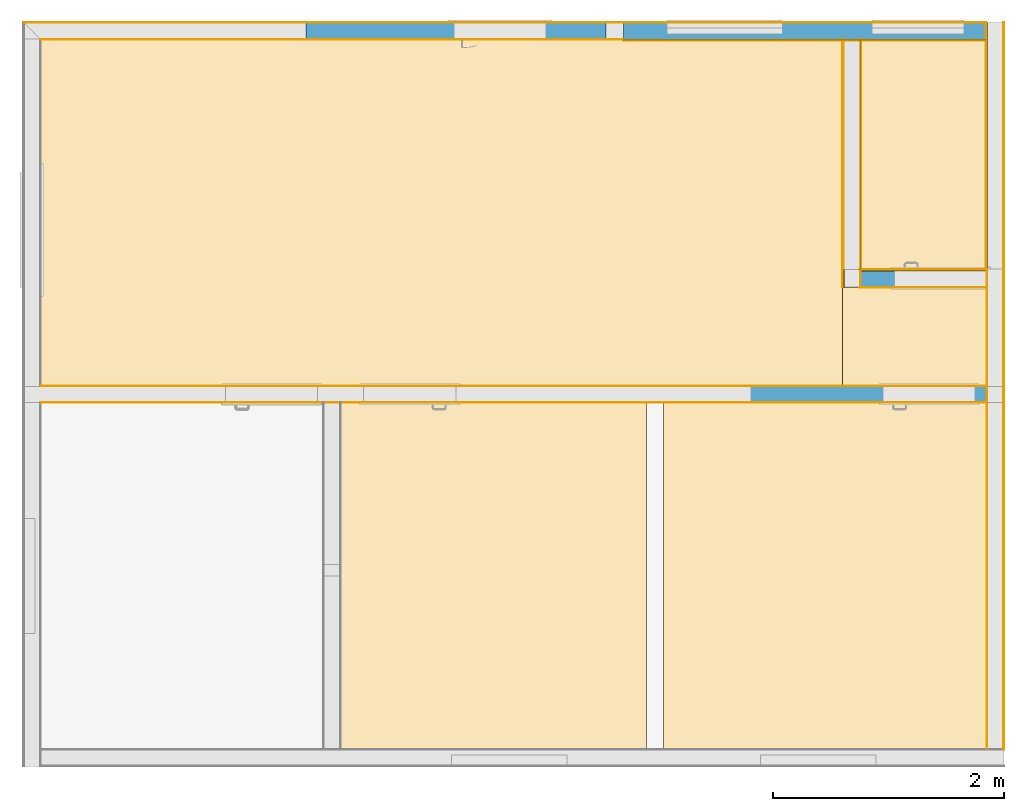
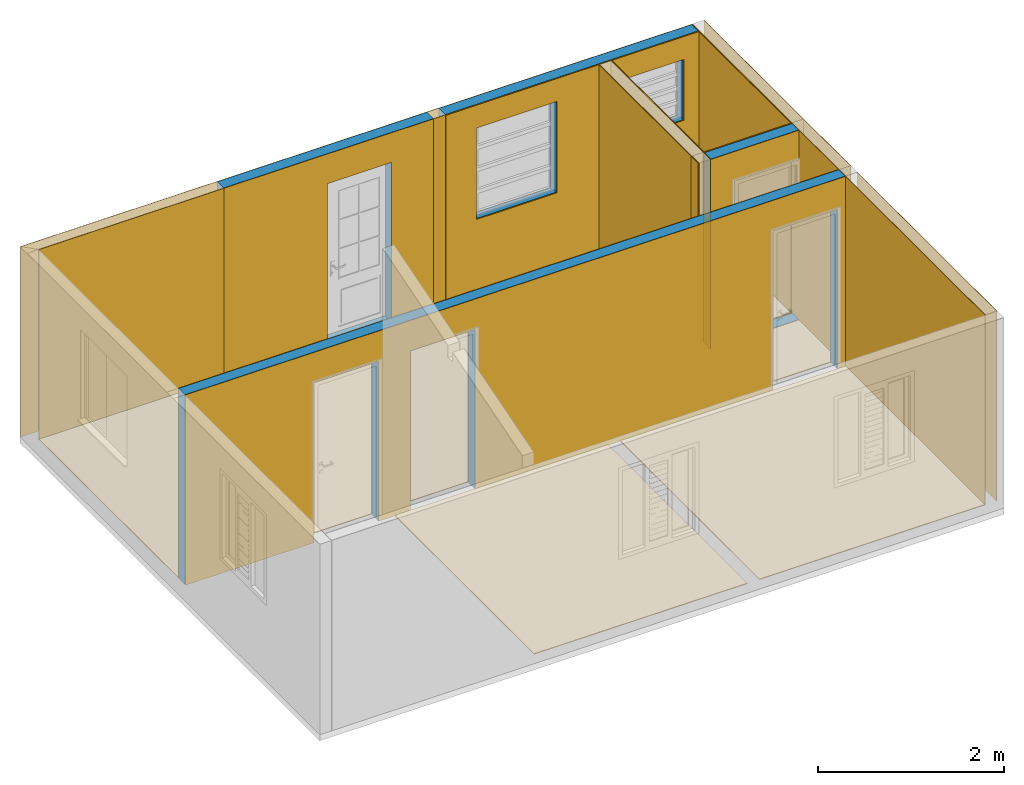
# One storey, part 5 of 8: 33 coverings, 4 building element parts, 7 openings, 11 elements without a shape of their own.
"""IFC2X3 building model written with IfcOpenShell, lengths in millimetres."""

from ifc_helpers import new_model, entity, si_unit, converted_unit, derived_unit, money_unit, direction, frame, origin_with_axes, origin_2d_with_axis, place, context, subcontext, project, spatial, polyline, rectangle, outline, extrude, boolean, faceted_brep, material, type_object, element, aggregate, save


model = new_model("IFC2X3")

# Units and contexts
model_context = context("Model", 3, precision=0.01, world=origin_with_axes(), true_north=direction((0.0, 1.0)))
body_context = subcontext(model_context, "Body", "Model", "MODEL_VIEW")
ifc_project = project(units=[si_unit("LENGTHUNIT", "METRE", prefix="MILLI"), si_unit("AREAUNIT", "SQUARE_METRE"), si_unit("VOLUMEUNIT", "CUBIC_METRE"), converted_unit("PLANEANGLEUNIT", "DEGREE", entity("IfcPlaneAngleMeasure", 0.0174532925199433), si_unit("PLANEANGLEUNIT", "RADIAN"), dimensions=[0, 0, 0, 0, 0, 0, 0]), money_unit("USD"), converted_unit("TIMEUNIT", "Year", entity("IfcTimeMeasure", 31557600.0), si_unit("TIMEUNIT", "SECOND"), dimensions=[0, 0, 1, 0, 0, 0, 0]), si_unit("MASSUNIT", "GRAM", prefix="KILO"), si_unit("THERMODYNAMICTEMPERATUREUNIT", "DEGREE_CELSIUS"), si_unit("LUMINOUSINTENSITYUNIT", "LUMEN"), si_unit("ENERGYUNIT", "JOULE", prefix="MEGA"), derived_unit("THERMALCONDUCTANCEUNIT", [(si_unit("POWERUNIT", "WATT"), 1), (si_unit("LENGTHUNIT", "METRE"), -1), (si_unit("THERMODYNAMICTEMPERATUREUNIT", "KELVIN"), -1)]), derived_unit("SPECIFICHEATCAPACITYUNIT", [(si_unit("ENERGYUNIT", "JOULE"), 1), (si_unit("MASSUNIT", "GRAM", prefix="KILO"), -1), (si_unit("THERMODYNAMICTEMPERATUREUNIT", "KELVIN"), -1)]), derived_unit("MASSDENSITYUNIT", [(si_unit("MASSUNIT", "GRAM", prefix="KILO"), 1), (si_unit("VOLUMEUNIT", "CUBIC_METRE"), -1)])], contexts=[model_context])

# Site, building, storey
site_placement = place(None, origin_with_axes())
site = spatial("IfcSite", under=ifc_project, at=site_placement, Name="Local", CompositionType="ELEMENT")
building_placement = place(site_placement, origin_with_axes())
building = spatial("IfcBuilding", under=site, at=building_placement, Name="Construção", CompositionType="ELEMENT")
storey_placement = place(building_placement, origin_with_axes())
storey = spatial("IfcBuildingStorey", under=building, at=storey_placement, Name="Pavimento Térreo", CompositionType="ELEMENT", Elevation=0.0)

# Coverings
ifc_material_1 = material(Name="Cerâmica")
covering_type = type_object("IfcCoveringType", Name="Cerâmica 10", PredefinedType="FLOORING")
covering_1_placement = place(storey_placement, frame((7098.898364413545, 4150.000000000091, 0.0), z_axis=(0.0, 0.0, 1.0), x_axis=(1.0, 0.0, 0.0)))
element("IfcCovering", 1, at=covering_1_placement, inside=storey, type_object=covering_type, material=ifc_material_1, Name="P05", PredefinedType="FLOORING", context=body_context, shape_type="SweptSolid", body=[
    extrude(outline(polyline([(0.0, 0.0), (0.0, -855.0000000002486), (1256.101621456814, -855.0000000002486), (1256.101646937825, 0.0), (0.0, 0.0)])), origin_with_axes(), (0.0, 0.0, 1.0), 10.0),
])
covering_2_placement = place(storey_placement, frame((150.0000000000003, 6300.000000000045, 0.0), z_axis=(0.0, 0.0, 1.0), x_axis=(1.0, 0.0, 0.0)))
element("IfcCovering", 2, at=covering_2_placement, inside=storey, type_object=covering_type, material=ifc_material_1, Name="P04", PredefinedType="FLOORING", context=body_context, shape_type="SweptSolid", body=[
    extrude(outline(polyline([(0.0, 0.0), (0.0, -3000.000011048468), (6948.89833033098, -3000.000011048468), (6948.898419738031, 0.0), (0.0, 0.0)])), origin_with_axes(), (0.0, 0.0, 1.0), 10.0),
])
covering_3_placement = place(storey_placement, frame((7114.999999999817, 6289.999999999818, 0.0), z_axis=(0.0, 0.0, 1.0), x_axis=(1.0, 0.0, 0.0)))
element("IfcCovering", 3, at=covering_3_placement, inside=storey, type_object=covering_type, material=ifc_material_1, Name="P06", PredefinedType="FLOORING", context=body_context, shape_type="SweptSolid", body=[
    extrude(outline(polyline([(0.0, 0.0), (0.0, -1980.000000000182), (1225.000000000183, -1980.000000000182), (1225.00005900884, 0.0), (0.0, 0.0)])), origin_with_axes(), (0.0, 0.0, 1.0), 10.0),
])
covering_4_placement = place(storey_placement, frame((2750.0, 3150.000011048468, 0.0), z_axis=(0.0, 0.0, 1.0), x_axis=(1.0, 0.0, 0.0)))
element("IfcCovering", 4, at=covering_4_placement, inside=storey, type_object=covering_type, material=ifc_material_1, Name="P02", PredefinedType="FLOORING", context=body_context, shape_type="SweptSolid", body=[
    extrude(outline(polyline([(0.0, 0.0), (0.0, -3000.000011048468), (2649.999934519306, -3000.000011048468), (2650.000023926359, 0.0), (0.0, 0.0)])), origin_with_axes(), (0.0, 0.0, 1.0), 10.0),
])
covering_5_placement = place(storey_placement, frame((5550.000000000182, 3150.000011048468, 0.0), z_axis=(0.0, 0.0, 1.0), x_axis=(1.0, 0.0, 0.0)))
element("IfcCovering", 5, at=covering_5_placement, inside=storey, type_object=covering_type, material=ifc_material_1, Name="P03", PredefinedType="FLOORING", context=body_context, shape_type="SweptSolid", body=[
    extrude(outline(polyline([(0.0, 0.0), (0.0, -3000.000011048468), (2799.999945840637, -3000.000011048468), (2800.000035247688, 0.0), (0.0, 0.0)])), origin_with_axes(), (0.0, 0.0, 1.0), 10.0),
])

# Wall, coverings
wall_type_1 = type_object("IfcWallType", Name="Alvenaria 140, Rebocada 2 Faces 150", PredefinedType="NOTDEFINED")
wall_1_placement = place(storey_placement, frame((8500.0, 149.9999999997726, 0.0), z_axis=(0.0, 0.0, 1.0), x_axis=(0.0, 1.0, 0.0)))
wall_1 = element("IfcWall", 6, at=wall_1_placement, inside=storey, type_object=wall_type_1, Name="Parede-03 - Trecho 3")
ifc_material_2 = material(Name="Reboco DEF")
covering_6_placement = place(wall_1_placement, origin_with_axes())
covering_6 = element("IfcCovering", 7, at=covering_6_placement, material=ifc_material_2, Name="Reboco DEF", PredefinedType="CLADDING", context=body_context, shape_type="CSG", body=[
    boolean("DIFFERENCE", boolean("DIFFERENCE", extrude(outline(polyline([(0.0, 0.0), (3145.00000000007, 0.0), (3145.00000000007, 5.000000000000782), (0.0, 5.000000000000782), (0.0, 0.0)])), origin_with_axes(), (0.0, 0.0, 1.0), 2500.0), faceted_brep([(3005.00000000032, 0.0, 2500.0), (3005.00000000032, 0.0, 2300.0), (3145.000000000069, 0.0, 2300.0), (3145.00000000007, 0.0, 2500.0), (3005.00000000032, 5.000000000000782, 2500.0), (3005.00000000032, 5.000000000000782, 2300.0), (3145.00000000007, 5.000000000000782, 2300.0), (3145.00000000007, 5.000000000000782, 2500.0)], [[[0, 1, 2, 3]], [[1, 0, 4, 5]], [[6, 2, 1, 5]], [[2, 6, 7, 3]], [[4, 0, 3, 7]], [[5, 4, 7, 6]]])), faceted_brep([(3005.00000000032, 5.000000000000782, 2500.0), (3005.00000000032, 5.000000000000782, 2300.0), (3145.00000000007, 5.000000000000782, 2300.0), (3145.00000000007, 5.000000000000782, 2500.0), (3005.00000000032, 140.0000000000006, 2500.0), (3005.00000000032, 140.0000000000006, 2300.0), (3145.00000000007, 140.0000000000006, 2300.0), (3145.00000000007, 140.0000000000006, 2500.0)], [[[0, 1, 2, 3]], [[0, 4, 5, 1]], [[6, 2, 1, 5]], [[6, 7, 3, 2]], [[4, 0, 3, 7]], [[4, 7, 6, 5]]])),
])
covering_7_placement = place(wall_1_placement, origin_with_axes())
covering_7 = element("IfcCovering", 8, at=covering_7_placement, material=ifc_material_2, Name="Reboco DEF", PredefinedType="CLADDING", context=body_context, shape_type="CSG", body=[
    boolean("DIFFERENCE", boolean("DIFFERENCE", extrude(outline(polyline([(0.0, 144.9999999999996), (3145.00000000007, 144.9999999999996), (3145.00000000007, 150.0000000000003), (0.0, 150.0000000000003), (0.0, 144.9999999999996)])), origin_with_axes(), (0.0, 0.0, 1.0), 2500.0), faceted_brep([(3005.00000000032, 0.0, 2500.0), (3005.00000000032, 0.0, 2300.0), (3145.000000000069, 0.0, 2300.0), (3145.00000000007, 0.0, 2500.0), (3005.00000000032, 5.000000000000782, 2500.0), (3005.00000000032, 5.000000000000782, 2300.0), (3145.00000000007, 5.000000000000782, 2300.0), (3145.00000000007, 5.000000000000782, 2500.0)], [[[0, 1, 2, 3]], [[1, 0, 4, 5]], [[6, 2, 1, 5]], [[2, 6, 7, 3]], [[4, 0, 3, 7]], [[5, 4, 7, 6]]])), faceted_brep([(3005.00000000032, 5.000000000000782, 2500.0), (3005.00000000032, 5.000000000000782, 2300.0), (3145.00000000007, 5.000000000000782, 2300.0), (3145.00000000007, 5.000000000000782, 2500.0), (3005.00000000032, 140.0000000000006, 2500.0), (3005.00000000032, 140.0000000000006, 2300.0), (3145.00000000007, 140.0000000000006, 2300.0), (3145.00000000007, 140.0000000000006, 2500.0)], [[[0, 1, 2, 3]], [[0, 4, 5, 1]], [[6, 2, 1, 5]], [[6, 7, 3, 2]], [[4, 0, 3, 7]], [[4, 7, 6, 5]]])),
])
aggregate(wall_1, [covering_6, covering_7])

# Wall, openings, coverings
wall_type_2 = type_object("IfcWallType", Name="Alvenaria 140, Rebocada + Azulejo 160", PredefinedType="NOTDEFINED")
wall_2_placement = place(storey_placement, frame((8340.0, 6449.999999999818, 0.0), z_axis=(0.0, 0.0, 1.0), x_axis=(-1.0, 0.0, 0.0)))
wall_2 = element("IfcWall", 9, at=wall_2_placement, inside=storey, type_object=wall_type_2, Name="Parede-04 - Trecho 4")
opening_1_placement = place(wall_2_placement, frame((585.0000000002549, 0.0, 1400.0), z_axis=(0.0, 0.0, 1.0), x_axis=(1.0, 0.0, 0.0)))
element("IfcOpeningElement", 10, at=opening_1_placement, cuts=wall_2, Name="J06", context=body_context, shape_type="SweptSolid", body=[
    extrude(rectangle(XDim=800.0000000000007, YDim=800.0000000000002, at=origin_2d_with_axis()), frame((0.0, 50.00000000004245, 400.0000000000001), z_axis=(0.0, -1.0, 0.0), x_axis=(-1.0, 0.0, 0.0)), (0.0, 0.0, -1.0), 270.0000000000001),
    extrude(rectangle(XDim=800.0000000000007, YDim=800.0000000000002, at=origin_2d_with_axis()), frame((0.0, 50.00000000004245, 400.0000000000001), z_axis=(0.0, 1.0, 0.0), x_axis=(-1.0, 0.0, 0.0)), (0.0, 0.0, -1.0), 210.0),
    extrude(rectangle(XDim=800.0000000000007, YDim=30.00000000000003, at=origin_2d_with_axis()), frame((0.0, 85.0000000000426, -15.00000000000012), z_axis=(0.0, 1.0, 0.0), x_axis=(-1.0, 0.0, 0.0)), (0.0, 0.0, -1.0), 195.0),
])
opening_2_placement = place(wall_2_placement, frame((2259.999999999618, -1.63424829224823e-10, 1000.0), z_axis=(0.0, 0.0, 1.0), x_axis=(1.0, 0.0, 0.0)))
element("IfcOpeningElement", 11, at=opening_2_placement, cuts=wall_2, Name="J01", context=body_context, shape_type="SweptSolid", body=[
    extrude(rectangle(XDim=1000.0, YDim=1200.0, at=origin_2d_with_axis()), frame((0.0, 50.00000000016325, 600.0000000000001), z_axis=(0.0, -1.0, 0.0), x_axis=(-1.0, 0.0, 0.0)), (0.0, 0.0, -1.0), 270.0000000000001),
    extrude(rectangle(XDim=1000.0, YDim=1200.0, at=origin_2d_with_axis()), frame((0.0, 50.00000000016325, 600.0000000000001), z_axis=(0.0, 1.0, 0.0), x_axis=(-1.0, 0.0, 0.0)), (0.0, 0.0, -1.0), 210.0),
    extrude(rectangle(XDim=1000.0, YDim=30.00000000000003, at=origin_2d_with_axis()), frame((0.0, 85.0000000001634, -15.00000000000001), z_axis=(0.0, 1.0, 0.0), x_axis=(-1.0, 0.0, 0.0)), (0.0, 0.0, -1.0), 195.0),
])
covering_8_placement = place(wall_2_placement, origin_with_axes())
covering_8 = element("IfcCovering", 12, at=covering_8_placement, material=ifc_material_2, Name="Reboco DEF", PredefinedType="CLADDING", context=body_context, shape_type="SweptSolid", body=[
    extrude(outline(polyline([(0.0, 0.0), (3140.000000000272, 0.0), (3140.000000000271, 4.999999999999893), (0.0, 4.999999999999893), (0.0, 0.0)])), origin_with_axes(), (0.0, 0.0, 1.0), 2500.0),
])
ifc_material_3 = material(Name="Argamassa Colante DEF")
covering_9_placement = place(wall_2_placement, origin_with_axes())
covering_9 = element("IfcCovering", 13, at=covering_9_placement, material=ifc_material_3, Name="Argamassa Colante DEF", PredefinedType="CLADDING", context=body_context, shape_type="SweptSolid", body=[
    extrude(outline(polyline([(0.0, 145.0000000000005), (3140.000000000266, 145.0000000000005), (3140.000000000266, 155.0000000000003), (0.0, 155.0000000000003), (0.0, 145.0000000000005)])), origin_with_axes(), (0.0, 0.0, 1.0), 2500.0),
])
ifc_material_4 = material(Name="Azulejo DEF")
covering_10_placement = place(wall_2_placement, origin_with_axes())
covering_10 = element("IfcCovering", 14, at=covering_10_placement, material=ifc_material_4, Name="Azulejo DEF", PredefinedType="CLADDING", context=body_context, shape_type="SweptSolid", body=[
    extrude(outline(polyline([(0.0, 155.0000000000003), (3140.000000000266, 155.0000000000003), (3140.000000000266, 160.0000000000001), (0.0, 160.0000000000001), (0.0, 155.0000000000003)])), origin_with_axes(), (0.0, 0.0, 1.0), 2500.0),
])

# Wall, coverings
wall_type_3 = type_object("IfcWallType", Name="Alvenaria 140, Azulejo + Rebocada 160", PredefinedType="NOTDEFINED")
wall_3_placement = place(storey_placement, frame((7098.898364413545, 4304.999980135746, 0.0), z_axis=(0.0, 0.0, 1.0), x_axis=(0.0, -1.0, 0.0)))
wall_3 = element("IfcWall", 15, at=wall_3_placement, inside=storey, type_object=wall_type_3, Name="Parede-07 - Trecho 2")
covering_11_placement = place(wall_3_placement, origin_with_axes())
covering_11 = element("IfcCovering", 16, at=covering_11_placement, material=ifc_material_4, Name="Azulejo DEF", PredefinedType="CLADDING", context=body_context, shape_type="SweptSolid", body=[
    extrude(outline(polyline([(0.0, 0.0), (150.0000000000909, 0.0), (150.0000000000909, 4.999999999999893), (0.0, 4.999999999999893), (0.0, 0.0)])), origin_with_axes(), (0.0, 0.0, 1.0), 2500.0),
])
covering_12_placement = place(wall_3_placement, origin_with_axes())
covering_12 = element("IfcCovering", 17, at=covering_12_placement, material=ifc_material_3, Name="Argamassa Colante DEF", PredefinedType="CLADDING", context=body_context, shape_type="SweptSolid", body=[
    extrude(outline(polyline([(0.0, 4.999999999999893), (150.0000000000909, 4.999999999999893), (150.0000000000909, 14.99999999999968), (0.0, 14.99999999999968), (0.0, 4.999999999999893)])), origin_with_axes(), (0.0, 0.0, 1.0), 2500.0),
])
covering_13_placement = place(wall_3_placement, origin_with_axes())
covering_13 = element("IfcCovering", 18, at=covering_13_placement, material=ifc_material_2, Name="Reboco DEF", PredefinedType="CLADDING", context=body_context, shape_type="SweptSolid", body=[
    extrude(outline(polyline([(0.0, 155.0000000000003), (150.0000000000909, 155.0000000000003), (150.0000000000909, 160.0000000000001), (0.0, 160.0000000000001), (0.0, 155.0000000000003)])), origin_with_axes(), (0.0, 0.0, 1.0), 2500.0),
])
aggregate(wall_3, [covering_11, covering_12, covering_13])

wall_type_4 = type_object("IfcWallType", Name="Alvenaria 140, Azulejo + Azulejo 165", PredefinedType="NOTDEFINED")
wall_4_placement = place(storey_placement, frame((7098.898364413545, 6304.999980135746, 0.0), z_axis=(0.0, 0.0, 1.0), x_axis=(0.0, -1.0, 0.0)))
wall_4 = element("IfcWall", 19, at=wall_4_placement, inside=storey, type_object=wall_type_4, Name="Parede-07 - Trecho 1")
covering_14_placement = place(wall_4_placement, origin_with_axes())
covering_14 = element("IfcCovering", 20, at=covering_14_placement, material=ifc_material_4, Name="Azulejo DEF", PredefinedType="CLADDING", context=body_context, shape_type="SweptSolid", body=[
    extrude(outline(polyline([(0.0, 0.0), (2000.0, 0.0), (2000.0, 4.999999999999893), (0.0, 4.999999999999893), (0.0, 0.0)])), origin_with_axes(), (0.0, 0.0, 1.0), 2500.0),
])
covering_15_placement = place(wall_4_placement, origin_with_axes())
covering_15 = element("IfcCovering", 21, at=covering_15_placement, material=ifc_material_3, Name="Argamassa Colante DEF", PredefinedType="CLADDING", context=body_context, shape_type="SweptSolid", body=[
    extrude(outline(polyline([(0.0, 4.999999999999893), (2000.0, 4.999999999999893), (2000.0, 9.999999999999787), (0.0, 9.999999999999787), (0.0, 4.999999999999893)])), origin_with_axes(), (0.0, 0.0, 1.0), 2500.0),
])
covering_16_placement = place(wall_4_placement, origin_with_axes())
covering_16 = element("IfcCovering", 22, at=covering_16_placement, material=ifc_material_3, Name="Argamassa Colante DEF", PredefinedType="CLADDING", context=body_context, shape_type="SweptSolid", body=[
    extrude(outline(polyline([(0.0, 150.0000000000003), (2000.0, 150.0000000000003), (2000.0, 160.0000000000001), (0.0, 160.0000000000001), (0.0, 150.0000000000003)])), origin_with_axes(), (0.0, 0.0, 1.0), 2500.0),
])
covering_17_placement = place(wall_4_placement, origin_with_axes())
covering_17 = element("IfcCovering", 23, at=covering_17_placement, material=ifc_material_4, Name="Azulejo DEF", PredefinedType="CLADDING", context=body_context, shape_type="SweptSolid", body=[
    extrude(outline(polyline([(0.0, 160.0000000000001), (2000.0, 160.0000000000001), (2000.0, 165.0), (0.0, 165.0), (0.0, 160.0000000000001)])), origin_with_axes(), (0.0, 0.0, 1.0), 2500.0),
])
aggregate(wall_4, [covering_14, covering_15, covering_16, covering_17])

# Wall, openings, coverings
wall_5_placement = place(storey_placement, frame((8500.0, 3299.999999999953, 0.0), z_axis=(0.0, 0.0, 1.0), x_axis=(-1.0, 0.0, 0.0)))
wall_5 = element("IfcWall", 24, at=wall_5_placement, inside=storey, type_object=wall_type_1, Name="Parede-05")
opening_3_placement = place(wall_5_placement, frame((650.0000000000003, 0.0, 0.0), z_axis=(0.0, 0.0, 1.0), x_axis=(1.0, 0.0, 0.0)))
element("IfcOpeningElement", 25, at=opening_3_placement, cuts=wall_5, Name="P04", context=body_context, shape_type="SweptSolid", body=[
    extrude(rectangle(XDim=800.0000000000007, YDim=2100.0, at=origin_2d_with_axis()), frame((0.0, 149.9999999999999, 1050.0), z_axis=(0.0, 1.0, 0.0), x_axis=(-1.0, 0.0, 0.0)), (0.0, 0.0, -1.0), 450.0000000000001),
    extrude(rectangle(XDim=870.000000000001, YDim=2135.0, at=origin_2d_with_axis()), frame((0.0, 150.0000000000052, 1067.5), z_axis=(0.0, 1.0, 0.0), x_axis=(-1.0, 0.0, 0.0)), (0.0, 0.0, 1.0), 150.0),
    extrude(rectangle(XDim=870.000000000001, YDim=2135.0, at=origin_2d_with_axis()), frame((0.0, 0.0, 1067.5), z_axis=(0.0, -1.0, 0.0), x_axis=(-1.0, 0.0, 0.0)), (0.0, 0.0, 1.0), 150.0),
])
opening_4_placement = place(wall_5_placement, frame((6349.999999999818, 0.0, 0.0), z_axis=(0.0, 0.0, 1.0), x_axis=(1.0, 0.0, 0.0)))
element("IfcOpeningElement", 26, at=opening_4_placement, cuts=wall_5, Name="P03", context=body_context, shape_type="SweptSolid", body=[
    extrude(rectangle(XDim=799.9999999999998, YDim=2100.0, at=origin_2d_with_axis()), frame((0.0, -149.9999999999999, 1050.0), z_axis=(0.0, -1.0, 0.0), x_axis=(-1.0, 0.0, 0.0)), (0.0, 0.0, -1.0), 450.0000000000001),
    extrude(rectangle(XDim=870.0000000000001, YDim=2135.0, at=origin_2d_with_axis()), frame((0.0, 0.0, 1067.5), z_axis=(0.0, -1.0, 0.0), x_axis=(-1.0, 0.0, 0.0)), (0.0, 0.0, 1.0), 150.0),
    extrude(rectangle(XDim=870.0000000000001, YDim=2135.0, at=origin_2d_with_axis()), frame((0.0, 150.0000000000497, 1067.5), z_axis=(0.0, 1.0, 0.0), x_axis=(-1.0, 0.0, 0.0)), (0.0, 0.0, 1.0), 150.0),
])
opening_5_placement = place(wall_5_placement, frame((5151.361852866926, 0.0, 0.0), z_axis=(0.0, 0.0, 1.0), x_axis=(1.0, 0.0, 0.0)))
element("IfcOpeningElement", 27, at=opening_5_placement, cuts=wall_5, Name="P05", context=body_context, shape_type="SweptSolid", body=[
    extrude(rectangle(XDim=799.9999999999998, YDim=2100.0, at=origin_2d_with_axis()), frame((0.0, -149.9999999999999, 1050.0), z_axis=(0.0, 1.0, 0.0), x_axis=(1.0, 0.0, 0.0)), (0.0, 0.0, 1.0), 450.0000000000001),
    extrude(rectangle(XDim=870.0000000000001, YDim=2135.0, at=origin_2d_with_axis()), frame((0.0, 0.0, 1067.5), z_axis=(0.0, 1.0, 0.0), x_axis=(1.0, 0.0, 0.0)), (0.0, 0.0, -1.0), 150.0),
    extrude(rectangle(XDim=870.0000000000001, YDim=2135.0, at=origin_2d_with_axis()), frame((0.0, 150.0000000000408, 1067.5), z_axis=(0.0, -1.0, 0.0), x_axis=(1.0, 0.0, 0.0)), (0.0, 0.0, -1.0), 150.0),
])
covering_18_placement = place(wall_5_placement, origin_with_axes())
covering_18 = element("IfcCovering", 28, at=covering_18_placement, material=ifc_material_2, Name="Reboco DEF", PredefinedType="CLADDING", context=body_context, shape_type="SweptSolid", body=[
    extrude(outline(polyline([(150.0000000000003, 0.0), (8350.0, 0.0), (8350.0, 4.999999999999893), (150.0000000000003, 4.999999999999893), (150.0000000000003, 0.0)])), origin_with_axes(), (0.0, 0.0, 1.0), 2500.0),
])
covering_19_placement = place(wall_5_placement, origin_with_axes())
covering_19 = element("IfcCovering", 29, at=covering_19_placement, material=ifc_material_2, Name="Reboco DEF", PredefinedType="CLADDING", context=body_context, shape_type="SweptSolid", body=[
    extrude(outline(polyline([(149.9999999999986, 145.0), (8349.999999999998, 145.0), (8349.999999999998, 149.9999999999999), (149.9999999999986, 149.9999999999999), (149.9999999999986, 145.0)])), origin_with_axes(), (0.0, 0.0, 1.0), 2500.0),
])

# Wall, coverings
wall_6_placement = place(storey_placement, frame((2450.000000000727, 6450.000000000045, 0.0), z_axis=(0.0, 0.0, 1.0), x_axis=(-1.0, 0.0, 0.0)))
wall_6 = element("IfcWall", 30, at=wall_6_placement, inside=storey, type_object=wall_type_1, Name="Parede-04 - Trecho 1")
covering_20_placement = place(wall_6_placement, origin_with_axes())
covering_20 = element("IfcCovering", 31, at=covering_20_placement, material=ifc_material_2, Name="Reboco DEF", PredefinedType="CLADDING", context=body_context, shape_type="SweptSolid", body=[
    extrude(outline(polyline([(0.0, 0.0), (2450.000000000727, 0.0), (2445.000000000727, 4.999999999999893), (0.0, 4.999999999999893), (0.0, 0.0)])), origin_with_axes(), (0.0, 0.0, 1.0), 2500.0),
])
covering_21_placement = place(wall_6_placement, origin_with_axes())
covering_21 = element("IfcCovering", 32, at=covering_21_placement, material=ifc_material_2, Name="Reboco DEF", PredefinedType="CLADDING", context=body_context, shape_type="SweptSolid", body=[
    extrude(outline(polyline([(0.0, 145.0000000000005), (2305.000000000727, 145.0000000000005), (2300.000000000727, 150.0000000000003), (0.0, 150.0000000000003), (0.0, 145.0000000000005)])), origin_with_axes(), (0.0, 0.0, 1.0), 2500.0),
])
aggregate(wall_6, [covering_20, covering_21])

# Wall, opening, coverings
wall_7_placement = place(storey_placement, frame((5049.999999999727, 6450.000000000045, 0.0), z_axis=(0.0, 0.0, 1.0), x_axis=(-1.0, 0.0, 0.0)))
wall_7 = element("IfcWall", 33, at=wall_7_placement, inside=storey, type_object=wall_type_1, Name="Parede-04 - Trecho 2")
opening_6_placement = place(wall_7_placement, frame((918.6047263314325, 0.0, 10.0), z_axis=(0.0, 0.0, 1.0), x_axis=(1.0, 0.0, 0.0)))
element("IfcOpeningElement", 34, at=opening_6_placement, cuts=wall_7, Name="P01", context=body_context, shape_type="SweptSolid", body=[
    extrude(rectangle(XDim=800.0000000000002, YDim=2100.0, at=origin_2d_with_axis()), frame((0.0, 150.0000000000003, 1050.0), z_axis=(0.0, 1.0, 0.0), x_axis=(-1.0, 0.0, 0.0)), (0.0, 0.0, -1.0), 450.0000000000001),
    extrude(rectangle(XDim=900.0000000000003, YDim=2150.0, at=origin_2d_with_axis()), frame((0.0, 0.0, 1075.0), z_axis=(0.0, -1.0, 0.0), x_axis=(-1.0, 0.0, 0.0)), (0.0, 0.0, 1.0), 150.0),
])
covering_22_placement = place(wall_7_placement, origin_with_axes())
covering_22 = element("IfcCovering", 35, at=covering_22_placement, material=ifc_material_2, Name="Reboco DEF", PredefinedType="CLADDING", context=body_context, shape_type="SweptSolid", body=[
    extrude(outline(polyline([(0.0, 0.0), (2599.999999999, 0.0), (2599.999999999, 4.999999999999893), (0.0, 4.999999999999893), (0.0, 0.0)])), origin_with_axes(), (0.0, 0.0, 1.0), 2500.0),
])
covering_23_placement = place(wall_7_placement, origin_with_axes())
covering_23 = element("IfcCovering", 36, at=covering_23_placement, material=ifc_material_2, Name="Reboco DEF", PredefinedType="CLADDING", context=body_context, shape_type="SweptSolid", body=[
    extrude(outline(polyline([(0.0, 145.0000000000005), (2599.999999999, 145.0000000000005), (2599.999999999, 150.0000000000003), (0.0, 150.0000000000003), (0.0, 145.0000000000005)])), origin_with_axes(), (0.0, 0.0, 1.0), 2500.0),
])

# Wall, coverings
wall_8_placement = place(storey_placement, frame((8500.0, 4309.999999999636, 0.0), z_axis=(0.0, 0.0, 1.0), x_axis=(0.0, 1.0, 0.0)))
wall_8 = element("IfcWall", 37, at=wall_8_placement, inside=storey, type_object=wall_type_2, Name="Parede-03 - Trecho 1")
covering_24_placement = place(wall_8_placement, origin_with_axes())
covering_24 = element("IfcCovering", 38, at=covering_24_placement, material=ifc_material_3, Name="Argamassa Colante DEF", PredefinedType="CLADDING", context=body_context, shape_type="SweptSolid", body=[
    extrude(outline(polyline([(0.0, 144.9999999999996), (2140.000000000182, 144.9999999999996), (2140.000000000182, 154.9999999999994), (0.0, 154.9999999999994), (0.0, 144.9999999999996)])), origin_with_axes(), (0.0, 0.0, 1.0), 2500.0),
])
covering_25_placement = place(wall_8_placement, origin_with_axes())
covering_25 = element("IfcCovering", 39, at=covering_25_placement, material=ifc_material_2, Name="Reboco DEF", PredefinedType="CLADDING", context=body_context, shape_type="SweptSolid", body=[
    extrude(outline(polyline([(0.0, 0.0), (2140.000000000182, 0.0), (2140.000000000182, 5.000000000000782), (0.0, 5.000000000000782), (0.0, 0.0)])), origin_with_axes(), (0.0, 0.0, 1.0), 2500.0),
])
covering_26_placement = place(wall_8_placement, origin_with_axes())
covering_26 = element("IfcCovering", 40, at=covering_26_placement, material=ifc_material_4, Name="Azulejo DEF", PredefinedType="CLADDING", context=body_context, shape_type="SweptSolid", body=[
    extrude(outline(polyline([(0.0, 154.9999999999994), (2140.000000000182, 154.9999999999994), (2140.000000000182, 160.0000000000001), (0.0, 160.0000000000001), (0.0, 154.9999999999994)])), origin_with_axes(), (0.0, 0.0, 1.0), 2500.0),
])
aggregate(wall_8, [covering_24, covering_25, covering_26])

wall_9_placement = place(storey_placement, frame((5199.999999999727, 6450.000000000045, 0.0), z_axis=(0.0, 0.0, 1.0), x_axis=(-1.0, 0.0, 0.0)))
wall_9 = element("IfcWall", 41, at=wall_9_placement, inside=storey, type_object=wall_type_1, Name="Parede-04 - Trecho 3")
covering_27_placement = place(wall_9_placement, origin_with_axes())
covering_27 = element("IfcCovering", 42, at=covering_27_placement, material=ifc_material_2, Name="Reboco DEF", PredefinedType="CLADDING", context=body_context, shape_type="SweptSolid", body=[
    extrude(outline(polyline([(0.0, 0.0), (150.0000000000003, 0.0), (150.0000000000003, 4.999999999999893), (0.0, 4.999999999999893), (0.0, 0.0)])), origin_with_axes(), (0.0, 0.0, 1.0), 2500.0),
])
covering_28_placement = place(wall_9_placement, origin_with_axes())
covering_28 = element("IfcCovering", 43, at=covering_28_placement, material=ifc_material_2, Name="Reboco DEF", PredefinedType="CLADDING", context=body_context, shape_type="SweptSolid", body=[
    extrude(outline(polyline([(0.0, 145.0000000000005), (150.0000000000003, 145.0000000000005), (150.0000000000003, 150.0000000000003), (0.0, 150.0000000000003), (0.0, 145.0000000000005)])), origin_with_axes(), (0.0, 0.0, 1.0), 2500.0),
])
aggregate(wall_9, [covering_27, covering_28])

wall_10_placement = place(storey_placement, frame((8500.0, 3294.999999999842, 0.0), z_axis=(0.0, 0.0, 1.0), x_axis=(0.0, 1.0, 0.0)))
wall_10 = element("IfcWall", 44, at=wall_10_placement, inside=storey, type_object=wall_type_1, Name="Parede-03 - Trecho 2")
covering_29_placement = place(wall_10_placement, origin_with_axes())
covering_29 = element("IfcCovering", 45, at=covering_29_placement, material=ifc_material_2, Name="Reboco DEF", PredefinedType="CLADDING", context=body_context, shape_type="SweptSolid", body=[
    extrude(outline(polyline([(0.0, 144.9999999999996), (1014.999999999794, 144.9999999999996), (1014.999999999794, 150.0000000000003), (0.0, 150.0000000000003), (0.0, 144.9999999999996)])), origin_with_axes(), (0.0, 0.0, 1.0), 2500.0),
])
covering_30_placement = place(wall_10_placement, origin_with_axes())
covering_30 = element("IfcCovering", 46, at=covering_30_placement, material=ifc_material_2, Name="Reboco DEF", PredefinedType="CLADDING", context=body_context, shape_type="SweptSolid", body=[
    extrude(outline(polyline([(0.0, 0.0), (1014.999999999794, 0.0), (1014.999999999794, 5.000000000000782), (0.0, 5.000000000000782), (0.0, 0.0)])), origin_with_axes(), (0.0, 0.0, 1.0), 2500.0),
])
aggregate(wall_10, [covering_29, covering_30])

# Wall, opening, coverings
wall_11_placement = place(storey_placement, frame((7250.0, 4150.000000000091, 0.0), z_axis=(0.0, 0.0, 1.0), x_axis=(1.0, 0.0, 0.0)))
wall_11 = element("IfcWall", 47, at=wall_11_placement, inside=storey, type_object=wall_type_2, Name="Parede-08")
opening_7_placement = place(wall_11_placement, frame((700.0000000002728, 0.0, 10.0), z_axis=(0.0, 0.0, 1.0), x_axis=(1.0, 0.0, 0.0)))
element("IfcOpeningElement", 48, at=opening_7_placement, cuts=wall_11, Name="P02", context=body_context, shape_type="SweptSolid", body=[
    extrude(rectangle(XDim=800.0000000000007, YDim=2100.0, at=origin_2d_with_axis()), frame((0.0, 160.0000000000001, 1050.0), z_axis=(0.0, -1.0, 0.0), x_axis=(1.0, 0.0, 0.0)), (0.0, 0.0, 1.0), 480.0000000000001),
    extrude(rectangle(XDim=870.000000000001, YDim=2135.0, at=origin_2d_with_axis()), frame((0.0, 160.0000000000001, 1067.5), z_axis=(0.0, -1.0, 0.0), x_axis=(1.0, 0.0, 0.0)), (0.0, 0.0, -1.0), 160.0),
    extrude(rectangle(XDim=870.000000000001, YDim=2135.0, at=origin_2d_with_axis()), frame((0.0, 0.0, 1067.5), z_axis=(0.0, 1.0, 0.0), x_axis=(1.0, 0.0, 0.0)), (0.0, 0.0, -1.0), 160.0),
])
covering_31_placement = place(wall_11_placement, origin_with_axes())
covering_31 = element("IfcCovering", 49, at=covering_31_placement, material=ifc_material_2, Name="Reboco DEF", PredefinedType="CLADDING", context=body_context, shape_type="SweptSolid", body=[
    extrude(outline(polyline([(0.0, 0.0), (1100.0, 0.0), (1100.0, 4.999999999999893), (0.0, 4.999999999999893), (0.0, 0.0)])), origin_with_axes(), (0.0, 0.0, 1.0), 2500.0),
])
covering_32_placement = place(wall_11_placement, origin_with_axes())
covering_32 = element("IfcCovering", 50, at=covering_32_placement, material=ifc_material_3, Name="Argamassa Colante DEF", PredefinedType="CLADDING", context=body_context, shape_type="SweptSolid", body=[
    extrude(outline(polyline([(0.0, 145.0000000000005), (1100.0, 145.0000000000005), (1100.0, 155.0000000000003), (0.0, 155.0000000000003), (0.0, 145.0000000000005)])), origin_with_axes(), (0.0, 0.0, 1.0), 2500.0),
])
covering_33_placement = place(wall_11_placement, origin_with_axes())
covering_33 = element("IfcCovering", 51, at=covering_33_placement, material=ifc_material_4, Name="Azulejo DEF", PredefinedType="CLADDING", context=body_context, shape_type="SweptSolid", body=[
    extrude(outline(polyline([(0.0, 155.0000000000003), (1100.0, 155.0000000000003), (1100.0, 160.0000000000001), (0.0, 160.0000000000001), (0.0, 155.0000000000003)])), origin_with_axes(), (0.0, 0.0, 1.0), 2500.0),
])

# Building element part
ifc_material_5 = material(Name="Bloco de Concreto - Estrutural DEF")
building_element_part_1_placement = place(wall_2_placement, origin_with_axes())
building_element_part_1 = element("IfcBuildingElementPart", 52, at=building_element_part_1_placement, material=ifc_material_5, Name="Bloco de Concreto - Estrutural DEF", context=body_context, shape_type="SweptSolid", body=[
    extrude(outline(polyline([(0.0, 4.999999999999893), (3140.000000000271, 4.999999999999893), (3140.000000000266, 145.0000000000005), (0.0, 145.0000000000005), (0.0, 4.999999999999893)])), origin_with_axes(), (0.0, 0.0, 1.0), 2500.0),
])

aggregate(wall_2, [covering_8, building_element_part_1, covering_9, covering_10])

building_element_part_2_placement = place(wall_5_placement, origin_with_axes())
building_element_part_2 = element("IfcBuildingElementPart", 53, at=building_element_part_2_placement, material=ifc_material_5, Name="Bloco de Concreto - Estrutural DEF", context=body_context, shape_type="SweptSolid", body=[
    extrude(outline(polyline([(150.0000000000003, 4.999999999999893), (8350.0, 4.999999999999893), (8349.999999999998, 145.0), (149.9999999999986, 145.0), (150.0000000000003, 4.999999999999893)])), origin_with_axes(), (0.0, 0.0, 1.0), 2500.0),
])

aggregate(wall_5, [covering_18, building_element_part_2, covering_19])

building_element_part_3_placement = place(wall_7_placement, origin_with_axes())
building_element_part_3 = element("IfcBuildingElementPart", 54, at=building_element_part_3_placement, material=ifc_material_5, Name="Bloco de Concreto - Estrutural DEF", context=body_context, shape_type="SweptSolid", body=[
    extrude(outline(polyline([(0.0, 4.999999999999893), (2599.999999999, 4.999999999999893), (2599.999999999, 145.0000000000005), (0.0, 145.0000000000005), (0.0, 4.999999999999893)])), origin_with_axes(), (0.0, 0.0, 1.0), 2500.0),
])

aggregate(wall_7, [covering_22, building_element_part_3, covering_23])

building_element_part_4_placement = place(wall_11_placement, origin_with_axes())
building_element_part_4 = element("IfcBuildingElementPart", 55, at=building_element_part_4_placement, material=ifc_material_5, Name="Bloco de Concreto - Estrutural DEF", context=body_context, shape_type="SweptSolid", body=[
    extrude(outline(polyline([(0.0, 4.999999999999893), (1100.0, 4.999999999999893), (1100.0, 145.0000000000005), (0.0, 145.0000000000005), (0.0, 4.999999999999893)])), origin_with_axes(), (0.0, 0.0, 1.0), 2500.0),
])

aggregate(wall_11, [covering_31, building_element_part_4, covering_32, covering_33])

save(model, "model.ifc")
